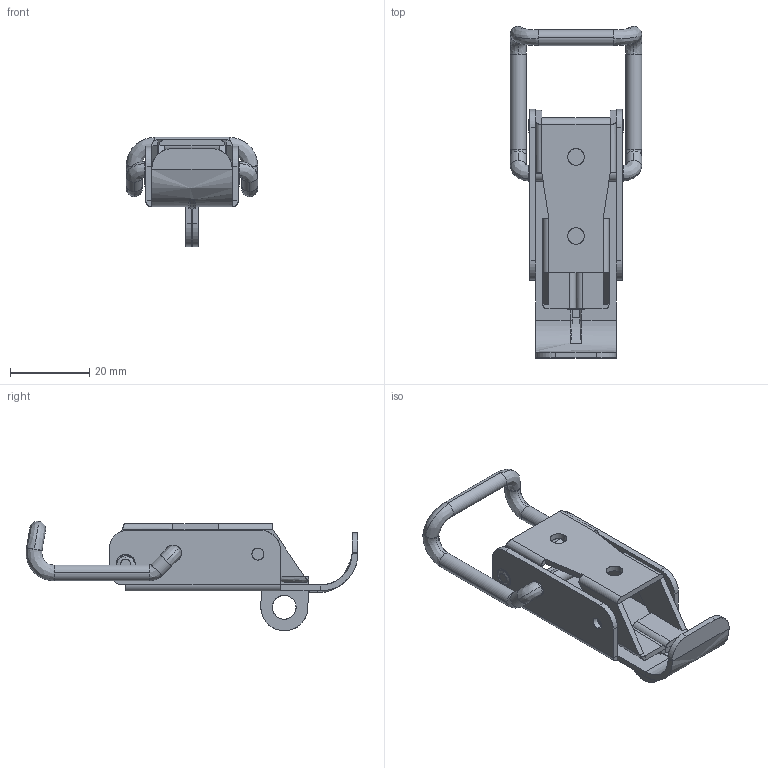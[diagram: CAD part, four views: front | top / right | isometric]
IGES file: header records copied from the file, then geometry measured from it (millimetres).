
Start section: SolidWorks IGES FILE using analytic representation for surfaces
Global section: file name: C:\WINNT\Profiles\cbrechard\Bureau\GE 44\GE 44.IGS; native system: SolidWorks 2001Plus by SolidWorks Corporation; preprocessor: Version 5.3; author: CBRECHARD; date: 050125.133103; units: millimetre
Bounding box: 33.17 x 83.88 x 27.64 mm (x, y, z)
Surface area: 11307.3 mm2 (no closed solid volume)
Topology: 0 solids, 0 shells, 187 faces, 2368 edges, 2368 vertices
Faces by surface type: bspline 108, revolution 79
